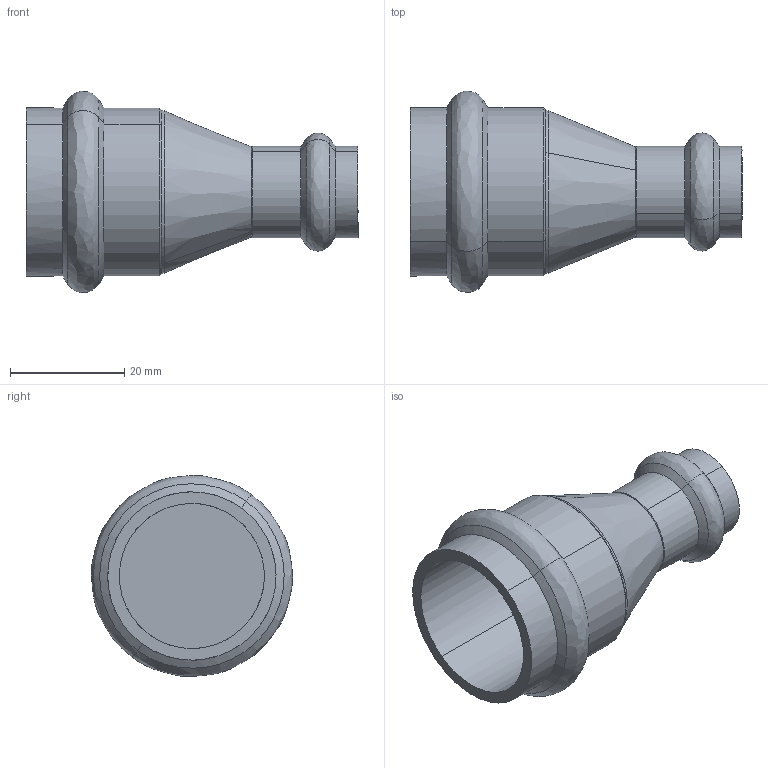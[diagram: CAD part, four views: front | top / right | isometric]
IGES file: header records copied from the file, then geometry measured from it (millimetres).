
Start section: 3D InterOp IGES (Version 25 0 1), Spatial Corp. Copyright (c) 1999-2007.
Global section: file name: pim0004374.igs; native system: Spatial Corp.; preprocessor: 3D InterOp ACIS/IGES; author: Cad-Pim; organization: TransMagic, Inc.; date: 20150430.131119; units: millimetre
Bounding box: 58 x 35.2 x 35.16 mm (x, y, z)
Volume: 14248.3 mm3; surface area: 8277.6 mm2
Topology: 1 solids, 1 shells, 36 faces, 96 edges, 64 vertices
Faces by surface type: cone 14, cylinder 12, bspline 10
